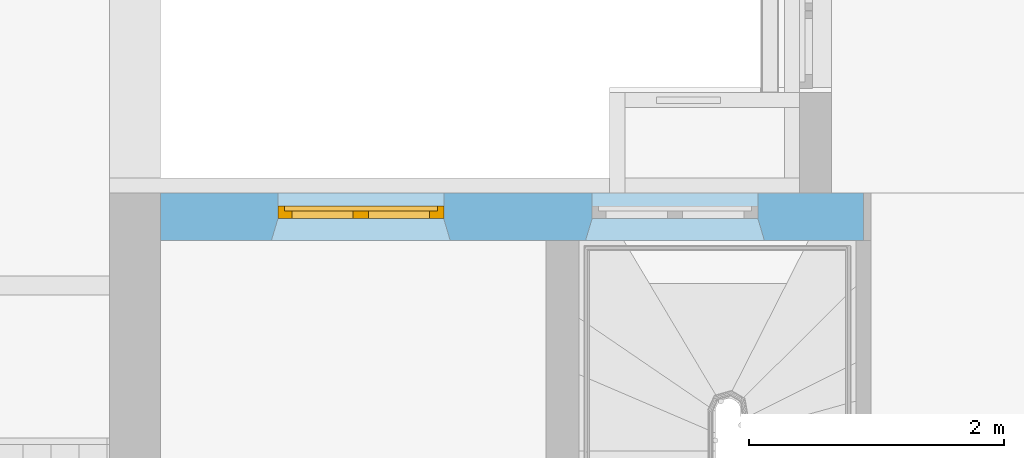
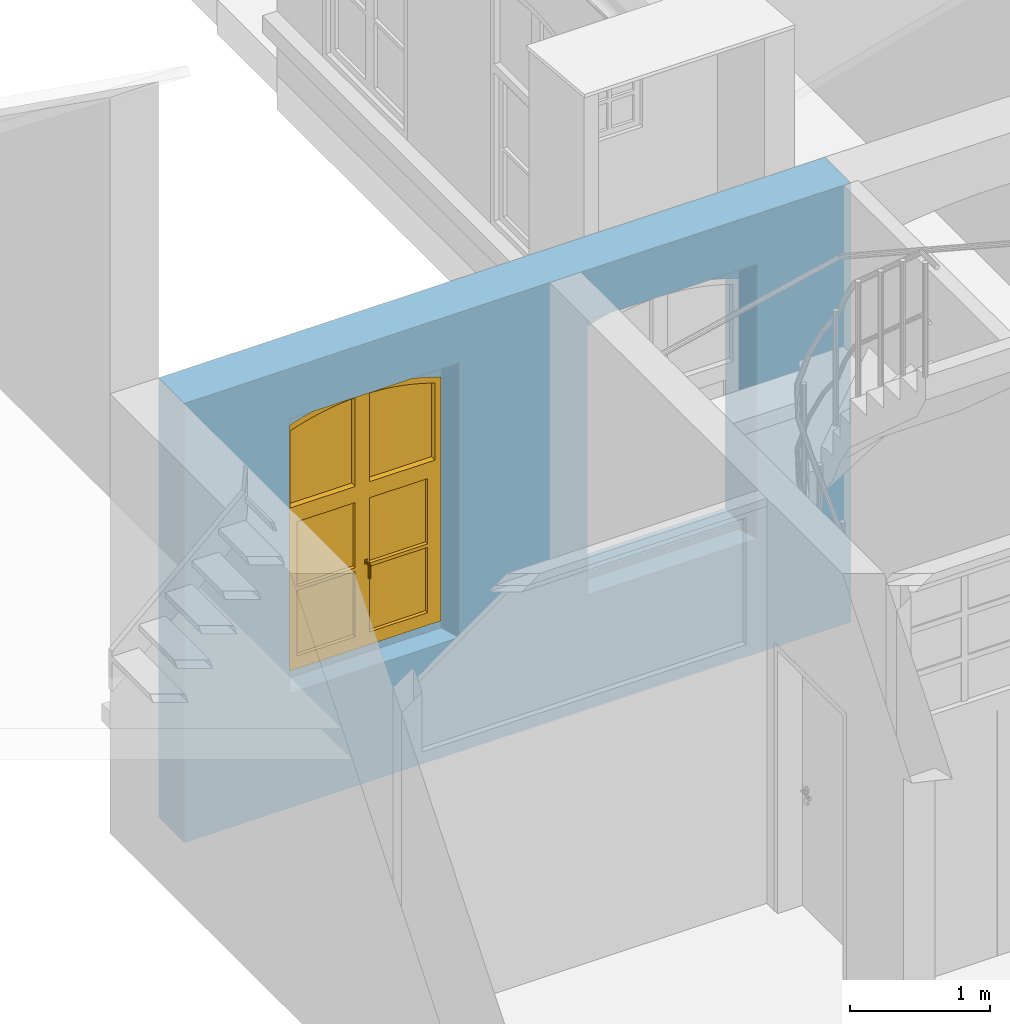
"""IFC4 building model written with IfcOpenShell, lengths in metres."""

from ifc_helpers import new_model, entity, si_unit, converted_unit, derived_unit, frame, frame_2d, origin, origin_with_axes, place, context, subcontext, project, spatial, polyline, rectangle, outline, extrude, closed_shell, open_shell, surface_model, source, transform, mapped, material, layer, layer_set, layer_usage, element, fill, save


model = new_model("IFC4")

# Units and contexts
model_context = context("Model", 3, precision=1e-05, world=origin())
body_context = subcontext(model_context, "Body", "Model", "MODEL_VIEW")
ifc_project = project(units=[si_unit("LENGTHUNIT", "METRE"), si_unit("AREAUNIT", "SQUARE_METRE"), si_unit("VOLUMEUNIT", "CUBIC_METRE"), si_unit("MASSUNIT", "GRAM", prefix="KILO"), converted_unit("PLANEANGLEUNIT", "DEGREE", entity("IfcPlaneAngleMeasure", 0.0174532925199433), si_unit("PLANEANGLEUNIT", "RADIAN"), dimensions=[0, 0, 0, 0, 0, 0, 0]), derived_unit("THERMALTRANSMITTANCEUNIT", [(si_unit("POWERUNIT", "WATT"), 1), (si_unit("THERMODYNAMICTEMPERATUREUNIT", "KELVIN"), -1), (si_unit("LENGTHUNIT", "METRE"), -2)]), derived_unit("VOLUMETRICFLOWRATEUNIT", [(si_unit("LENGTHUNIT", "METRE"), 3), (converted_unit("TIMEUNIT", "hour", entity("IfcTimeMeasure", 3600.0), si_unit("TIMEUNIT", "SECOND"), dimensions=[0, 0, 1, 0, 0, 0, 0]), -1), (si_unit("LENGTHUNIT", "METRE"), -1)])], contexts=[model_context])

# Building, storeys
building_placement = place(None, origin())
building = spatial("IfcBuilding", under=ifc_project, at=building_placement, Name="Bestandsgebäude A - Sporthalle / Wohnhaus (TB 100-499)   ANPASSEN !!!", CompositionType="ELEMENT")
storey_1_placement = place(building_placement, frame((0.0, 0.0, 3.87)))
storey_1 = spatial("IfcBuildingStorey", under=building, at=storey_1_placement, Name="Geb. A 1. Obergeschoss (TB 250-299)", CompositionType="ELEMENT", Elevation=3.87)
storey_2_placement = place(storey_1_placement, frame((0.0, 0.0, 3.87)))
storey_2 = spatial("IfcBuildingStorey", under=storey_1, at=storey_2_placement, Name="Architektur (TB 250-259)", CompositionType="PARTIAL")

# Wall, openings, window
ifc_material = material(Name="concrete")
ifc_layer = layer(ifc_material, 0.37)
ifc_layer_set = layer_set([ifc_layer])
ifc_layer_usage = layer_usage(ifc_layer_set, "AXIS2", "POSITIVE", 0.0)
wall_placement = place(storey_2_placement, frame((-2.99, 9.25, -4.27), z_axis=(0.0, 0.0, 1.0), x_axis=(-1.0, 0.0, 0.0)))
wall = element("IfcWall", 1, at=wall_placement, inside=storey_2, material=ifc_layer_usage, Name="reinforced - bearing", PredefinedType="USERDEFINED", context=body_context, shape_type="SweptSolid", body=[
    extrude(rectangle(XDim=5.51, YDim=0.37, at=frame_2d((2.755, 0.185), x_axis=(1.0, 0.0))), origin_with_axes(), (0.0, 0.0, 1.0), 3.84),
])
opening_1_placement = place(wall_placement, frame((0.82707106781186, 0.0, 1.06), z_axis=(0.0, 1.0, 0.0), x_axis=(0.0, 0.0, 1.0)))
element("IfcOpeningElement", 2, at=opening_1_placement, cuts=wall, Name="Window opening", PredefinedType="OPENING", context=body_context, shape_type="SweptSolid", body=[
    extrude(outline(polyline([(2.13, 1.3), (2.14531656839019, 1.25842115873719), (2.15961661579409, 1.21648184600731), (2.1728916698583, 1.17420690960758), (2.18513386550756, 1.1316213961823), (2.19633594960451, 1.08875053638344), (2.20649128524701, 1.04561972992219), (2.21559385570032, 1.00225453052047), (2.22363826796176, 0.958680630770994), (2.23061975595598, 0.914923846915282), (2.23653418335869, 0.871010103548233), (2.24137804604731, 0.8269654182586), (2.24514847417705, 0.782815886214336), (2.24784323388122, 0.738587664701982), (2.24946072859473, 0.694306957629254), (2.25, 0.65), (2.24946072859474, 0.605693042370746), (2.24784323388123, 0.561412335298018), (2.24514847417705, 0.517184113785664), (2.24137804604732, 0.473034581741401), (2.2365341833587, 0.428989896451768), (2.23061975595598, 0.385076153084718), (2.22363826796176, 0.341319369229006), (2.21559385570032, 0.297745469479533), (2.20649128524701, 0.254380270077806), (2.1963359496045, 0.211249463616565), (2.18513386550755, 0.168378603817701), (2.1728916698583, 0.125793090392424), (2.15961661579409, 0.0835181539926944), (2.14531656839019, 0.0415788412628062), (2.13, 0.0), (0.0, 0.0), (0.0, 1.3), (2.13, 1.3)])), origin_with_axes(), (0.0, 0.0, 1.0), 0.37),
])
opening_2_placement = place(wall_placement, frame((2.17814473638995, 0.37, 1.0), z_axis=(0.0, 0.0, 1.0), x_axis=(-1.0, 0.0, 0.0)))
element("IfcOpeningElement", 3, at=opening_2_placement, cuts=wall, Name="Wall Niche", ObjectType="Opening", context=body_context, shape_type="SweptSolid", body=[
    extrude(outline(polyline([(0.0, 0.0), (1.40142755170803, 0.0), (1.35107366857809, 0.17), (0.0510736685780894, 0.17), (0.0, 0.0)])), origin_with_axes(), (0.0, 0.0, 1.0), 2.4),
])
opening_3_placement = place(wall_placement, frame((4.64107366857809, 0.37, 1.0), z_axis=(0.0, 0.0, 1.0), x_axis=(-1.0, 0.0, 0.0)))
element("IfcOpeningElement", 4, at=opening_3_placement, cuts=wall, Name="Wall Niche", ObjectType="Opening", context=body_context, shape_type="SweptSolid", body=[
    extrude(outline(polyline([(0.0, 0.0), (1.40142755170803, 0.0), (1.35107366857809, 0.17), (0.0510736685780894, 0.17), (0.0, 0.0)])), origin_with_axes(), (0.0, 0.0, 1.0), 2.4),
])
opening_4_placement = place(wall_placement, frame((3.29, 0.0, 1.06), z_axis=(0.0, 1.0, 0.0), x_axis=(0.0, 0.0, 1.0)))
opening_4 = element("IfcOpeningElement", 5, at=opening_4_placement, cuts=wall, Name="Window opening", PredefinedType="OPENING", context=body_context, shape_type="SweptSolid", body=[
    extrude(outline(polyline([(2.13, 1.3), (2.14531656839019, 1.25842115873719), (2.15961661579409, 1.21648184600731), (2.1728916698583, 1.17420690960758), (2.18513386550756, 1.1316213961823), (2.1963359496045, 1.08875053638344), (2.20649128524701, 1.04561972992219), (2.21559385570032, 1.00225453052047), (2.22363826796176, 0.958680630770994), (2.23061975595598, 0.914923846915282), (2.23653418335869, 0.871010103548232), (2.24137804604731, 0.8269654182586), (2.24514847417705, 0.782815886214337), (2.24784323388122, 0.738587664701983), (2.24946072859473, 0.694306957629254), (2.25, 0.65), (2.24946072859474, 0.605693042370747), (2.24784323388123, 0.561412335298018), (2.24514847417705, 0.517184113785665), (2.24137804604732, 0.473034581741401), (2.2365341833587, 0.428989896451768), (2.23061975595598, 0.385076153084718), (2.22363826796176, 0.341319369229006), (2.21559385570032, 0.297745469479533), (2.20649128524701, 0.254380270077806), (2.1963359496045, 0.211249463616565), (2.18513386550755, 0.1683786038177), (2.1728916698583, 0.125793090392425), (2.15961661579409, 0.0835181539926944), (2.14531656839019, 0.0415788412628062), (2.13, 0.0), (0.0, 0.0), (0.0, 1.3), (2.13, 1.3)])), origin_with_axes(), (0.0, 0.0, 1.0), 0.37),
])
shared_shape = source(origin_with_axes(), body_context, "Body", "SurfaceModel", [
    surface_model("IfcShellBasedSurfaceModel", [(1.25842115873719, 0.0, 2.14531656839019), (1.3, 0.0, 2.13), (1.3, 0.0, 0.0), (0.0, 0.0, 0.0), (0.0, 0.0, 2.13), (0.0415788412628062, 0.0, 2.14531656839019), (0.0835181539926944, 0.0, 2.15961661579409), (0.125793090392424, 0.0, 2.1728916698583), (0.1683786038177, 0.0, 2.18513386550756), (0.211249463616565, 0.0, 2.1963359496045), (0.254380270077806, 0.0, 2.20649128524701), (0.297745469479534, 0.0, 2.21559385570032), (0.341319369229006, 0.0, 2.22363826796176), (0.385076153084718, 0.0, 2.23061975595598), (0.428989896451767, 0.0, 2.23653418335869), (0.473034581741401, 0.0, 2.24137804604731), (0.517184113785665, 0.0, 2.24514847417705), (0.561412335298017, 0.0, 2.24784323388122), (0.605693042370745, 0.0, 2.24946072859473), (0.65, 0.0, 2.25), (0.694306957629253, 0.0, 2.24946072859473), (0.738587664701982, 0.0, 2.24784323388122), (0.782815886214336, 0.0, 2.24514847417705), (0.8269654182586, 0.0, 2.24137804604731), (0.871010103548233, 0.0, 2.23653418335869), (0.914923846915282, 0.0, 2.23061975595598), (0.958680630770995, 0.0, 2.22363826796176), (1.00225453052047, 0.0, 2.21559385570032), (1.04561972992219, 0.0, 2.20649128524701), (1.08875053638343, 0.0, 2.1963359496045), (1.1316213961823, 0.0, 2.18513386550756), (1.17420690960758, 0.0, 2.1728916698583), (1.21648184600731, 0.0, 2.15961661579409), (1.25, 0.0, 2.0951341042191), (1.24170887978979, 0.0, 2.09818833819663), (1.20092156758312, 0.0, 2.1120955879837), (1.15980785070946, 0.0, 2.12500599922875), (1.118392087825, 0.0, 2.13691192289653), (1.07669881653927, 0.0, 2.14780630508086), (1.03475273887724, 0.0, 2.15768269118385), (0.992578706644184, 0.0, 2.16653522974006), (0.950201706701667, 0.0, 2.17435867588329), (0.907646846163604, 0.0, 2.18114839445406), (0.864939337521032, 0.0, 2.18690036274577), (0.82210448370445, 0.0, 2.19161117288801), (0.779167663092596, 0.0, 2.19527803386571), (0.736154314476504, 0.0, 2.19789877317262), (0.693089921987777, 0.0, 2.19947183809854), (0.65, 0.0, 2.19999629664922), (0.606910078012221, 0.0, 2.19947183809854), (0.563845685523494, 0.0, 2.19789877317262), (0.520832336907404, 0.0, 2.19527803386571), (0.477895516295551, 0.0, 2.19161117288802), (0.435060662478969, 0.0, 2.18690036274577), (0.392353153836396, 0.0, 2.18114839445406), (0.349798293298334, 0.0, 2.17435867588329), (0.307421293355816, 0.0, 2.16653522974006), (0.265247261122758, 0.0, 2.15768269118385), (0.223301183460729, 0.0, 2.14780630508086), (0.181607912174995, 0.0, 2.13691192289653), (0.140192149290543, 0.0, 2.12500599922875), (0.0990784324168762, 0.0, 2.1120955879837), (0.0582911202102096, 0.0, 2.09818833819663), (0.05, 0.0, 2.0951341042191), (0.05, 0.0, 0.05), (1.25, 0.0, 0.05), (1.3, 0.1, 2.13), (1.25842115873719, 0.1, 2.14531656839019), (1.21648184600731, 0.1, 2.15961661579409), (1.17420690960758, 0.1, 2.1728916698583), (1.1316213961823, 0.1, 2.18513386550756), (1.08875053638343, 0.1, 2.1963359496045), (1.04561972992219, 0.1, 2.20649128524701), (1.00225453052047, 0.1, 2.21559385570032), (0.958680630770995, 0.1, 2.22363826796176), (0.914923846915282, 0.1, 2.23061975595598), (0.871010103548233, 0.1, 2.23653418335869), (0.8269654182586, 0.1, 2.24137804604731), (0.782815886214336, 0.1, 2.24514847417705), (0.738587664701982, 0.1, 2.24784323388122), (0.694306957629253, 0.1, 2.24946072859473), (0.65, 0.1, 2.25), (0.605693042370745, 0.1, 2.24946072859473), (0.561412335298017, 0.1, 2.24784323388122), (0.517184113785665, 0.1, 2.24514847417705), (0.473034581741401, 0.1, 2.24137804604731), (0.428989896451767, 0.1, 2.23653418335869), (0.385076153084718, 0.1, 2.23061975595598), (0.341319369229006, 0.1, 2.22363826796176), (0.297745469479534, 0.1, 2.21559385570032), (0.254380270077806, 0.1, 2.20649128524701), (0.211249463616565, 0.1, 2.1963359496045), (0.1683786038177, 0.1, 2.18513386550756), (0.125793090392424, 0.1, 2.1728916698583), (0.0835181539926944, 0.1, 2.15961661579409), (0.0415788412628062, 0.1, 2.14531656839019), (0.0, 0.1, 2.13), (0.0, 0.1, 0.0), (1.3, 0.1, 0.0), (1.24170887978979, 0.1, 2.09818833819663), (1.25, 0.1, 2.0951341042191), (1.25, 0.1, 0.05), (0.05, 0.1, 0.05), (0.05, 0.1, 2.0951341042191), (0.0582911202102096, 0.1, 2.09818833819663), (0.0990784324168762, 0.1, 2.1120955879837), (0.140192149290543, 0.1, 2.12500599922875), (0.181607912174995, 0.1, 2.13691192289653), (0.223301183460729, 0.1, 2.14780630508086), (0.265247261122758, 0.1, 2.15768269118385), (0.307421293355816, 0.1, 2.16653522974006), (0.349798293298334, 0.1, 2.17435867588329), (0.392353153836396, 0.1, 2.18114839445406), (0.435060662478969, 0.1, 2.18690036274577), (0.477895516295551, 0.1, 2.19161117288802), (0.520832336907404, 0.1, 2.19527803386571), (0.563845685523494, 0.1, 2.19789877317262), (0.606910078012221, 0.1, 2.19947183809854), (0.65, 0.1, 2.19999629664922), (0.693089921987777, 0.1, 2.19947183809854), (0.736154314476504, 0.1, 2.19789877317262), (0.779167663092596, 0.1, 2.19527803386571), (0.82210448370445, 0.1, 2.19161117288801), (0.864939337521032, 0.1, 2.18690036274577), (0.907646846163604, 0.1, 2.18114839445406), (0.950201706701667, 0.1, 2.17435867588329), (0.992578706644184, 0.1, 2.16653522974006), (1.03475273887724, 0.1, 2.15768269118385), (1.07669881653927, 0.1, 2.14780630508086), (1.118392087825, 0.1, 2.13691192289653), (1.15980785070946, 0.1, 2.12500599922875), (1.20092156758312, 0.1, 2.1120955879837)], [closed_shell([[[0, 1, 2, 3, 4, 5, 6, 7, 8, 9, 10, 11, 12, 13, 14, 15, 16, 17, 18, 19, 20, 21, 22, 23, 24, 25, 26, 27, 28, 29, 30, 31, 32], [33, 34, 35, 36, 37, 38, 39, 40, 41, 42, 43, 44, 45, 46, 47, 48, 49, 50, 51, 52, 53, 54, 55, 56, 57, 58, 59, 60, 61, 62, 63, 64, 65]], [[66, 67, 68, 69, 70, 71, 72, 73, 74, 75, 76, 77, 78, 79, 80, 81, 82, 83, 84, 85, 86, 87, 88, 89, 90, 91, 92, 93, 94, 95, 96, 97, 98], [99, 100, 101, 102, 103, 104, 105, 106, 107, 108, 109, 110, 111, 112, 113, 114, 115, 116, 117, 118, 119, 120, 121, 122, 123, 124, 125, 126, 127, 128, 129, 130, 131]], [[1, 0, 67, 66]], [[2, 1, 66, 98]], [[3, 2, 98, 97]], [[4, 3, 97, 96]], [[5, 4, 96, 95]], [[6, 5, 95, 94]], [[7, 6, 94, 93]], [[8, 7, 93, 92]], [[9, 8, 92, 91]], [[10, 9, 91, 90]], [[11, 10, 90, 89]], [[12, 11, 89, 88]], [[13, 12, 88, 87]], [[14, 13, 87, 86]], [[15, 14, 86, 85]], [[16, 15, 85, 84]], [[17, 16, 84, 83]], [[18, 17, 83, 82]], [[19, 18, 82, 81]], [[20, 19, 81, 80]], [[21, 20, 80, 79]], [[22, 21, 79, 78]], [[23, 22, 78, 77]], [[24, 23, 77, 76]], [[25, 24, 76, 75]], [[26, 25, 75, 74]], [[27, 26, 74, 73]], [[28, 27, 73, 72]], [[29, 28, 72, 71]], [[30, 29, 71, 70]], [[31, 30, 70, 69]], [[32, 31, 69, 68]], [[0, 32, 68, 67]], [[33, 100, 99, 34]], [[65, 101, 100, 33]], [[64, 102, 101, 65]], [[63, 103, 102, 64]], [[62, 104, 103, 63]], [[61, 105, 104, 62]], [[60, 106, 105, 61]], [[59, 107, 106, 60]], [[58, 108, 107, 59]], [[57, 109, 108, 58]], [[56, 110, 109, 57]], [[55, 111, 110, 56]], [[54, 112, 111, 55]], [[53, 113, 112, 54]], [[52, 114, 113, 53]], [[51, 115, 114, 52]], [[50, 116, 115, 51]], [[49, 117, 116, 50]], [[48, 118, 117, 49]], [[47, 119, 118, 48]], [[46, 120, 119, 47]], [[45, 121, 120, 46]], [[44, 122, 121, 45]], [[43, 123, 122, 44]], [[42, 124, 123, 43]], [[41, 125, 124, 42]], [[40, 126, 125, 41]], [[39, 127, 126, 40]], [[38, 128, 127, 39]], [[37, 129, 128, 38]], [[36, 130, 129, 37]], [[35, 131, 130, 36]], [[34, 99, 131, 35]]], orient=[[False, False], [False, False], [False], [False], [False], [False], [False], [False], [False], [False], [False], [False], [False], [False], [False], [False], [False], [False], [False], [False], [False], [False], [False], [False], [False], [False], [False], [False], [False], [False], [False], [False], [False], [False], [False], [False], [False], [False], [False], [False], [False], [False], [False], [False], [False], [False], [False], [False], [False], [False], [False], [False], [False], [False], [False], [False], [False], [False], [False], [False], [False], [False], [False], [False], [False], [False], [False], [False]])]),
    surface_model("IfcShellBasedSurfaceModel", [(1.25, 0.0, 1.4226446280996), (1.25, 0.0, 1.3426446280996), (0.05, 0.0, 1.3426446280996), (0.05, 0.0, 1.4226446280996), (1.25, 0.1, 1.3426446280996), (1.25, 0.1, 1.4226446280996), (0.05, 0.1, 1.4226446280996), (0.05, 0.1, 1.3426446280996)], [closed_shell([[[0, 1, 2, 3]], [[4, 5, 6, 7]], [[1, 0, 5, 4]], [[2, 1, 4, 7]], [[3, 2, 7, 6]], [[0, 3, 6, 5]]], orient=[[False], [False], [False], [False], [False], [False]])]),
    surface_model("IfcShellBasedSurfaceModel", [(0.71, 0.0, 2.19885414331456), (0.71, 0.0, 1.4226446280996), (0.59, 0.0, 1.4226446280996), (0.59, 0.0, 2.19885414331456), (0.606910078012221, 0.0, 2.19947183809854), (0.65, 0.0, 2.19999629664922), (0.693089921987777, 0.0, 2.19947183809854), (0.71, 0.1, 1.4226446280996), (0.71, 0.1, 2.19885414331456), (0.693089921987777, 0.1, 2.19947183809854), (0.65, 0.1, 2.19999629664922), (0.606910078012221, 0.1, 2.19947183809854), (0.59, 0.1, 2.19885414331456), (0.59, 0.1, 1.4226446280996)], [closed_shell([[[0, 1, 2, 3, 4, 5, 6]], [[7, 8, 9, 10, 11, 12, 13]], [[1, 0, 8, 7]], [[2, 1, 7, 13]], [[3, 2, 13, 12]], [[4, 3, 12, 11]], [[5, 4, 11, 10]], [[6, 5, 10, 9]], [[0, 6, 9, 8]]], orient=[[False], [False], [False], [False], [False], [False], [False], [False], [False]])]),
    surface_model("IfcShellBasedSurfaceModel", [(0.6505, 0.0, 0.05), (0.6505, 0.0, 1.3426446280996), (1.25, 0.0, 1.3426446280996), (1.25, 0.0, 0.05), (0.7105, 0.0, 1.2826446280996), (0.7105, 0.0, 0.11), (1.19, 0.0, 0.11), (1.19, 0.0, 1.2826446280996), (0.6505, 0.06, 1.3426446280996), (0.6505, 0.06, 0.05), (1.25, 0.06, 0.05), (1.25, 0.06, 1.3426446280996), (0.7105, 0.06, 0.11), (0.7105, 0.06, 1.2826446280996), (1.19, 0.06, 1.2826446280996), (1.19, 0.06, 0.11)], [closed_shell([[[0, 1, 2, 3], [4, 5, 6, 7]], [[8, 9, 10, 11], [12, 13, 14, 15]], [[1, 0, 9, 8]], [[2, 1, 8, 11]], [[3, 2, 11, 10]], [[0, 3, 10, 9]], [[4, 13, 12, 5]], [[7, 14, 13, 4]], [[6, 15, 14, 7]], [[5, 12, 15, 6]]], orient=[[False, False], [False, False], [False], [False], [False], [False], [False], [False], [False], [False]])]),
    surface_model("IfcShellBasedSurfaceModel", [(0.693, 0.0, 0.755), (0.668, 0.0, 0.755), (0.668, 0.0, 0.715), (0.693, 0.0, 0.715), (0.693, -0.01, 0.715), (0.668, -0.01, 0.715), (0.668, -0.01, 0.755), (0.693, -0.01, 0.755)], [closed_shell([[[0, 1, 2, 3]], [[4, 5, 6, 7]], [[3, 4, 7, 0]], [[2, 5, 4, 3]], [[1, 6, 5, 2]], [[0, 7, 6, 1]]], orient=[[False], [False], [False], [False], [False], [False]])]),
    surface_model("IfcShellBasedSurfaceModel", [(0.6705, -0.01, 0.735), (0.671839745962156, -0.01, 0.73), (0.6755, -0.01, 0.726339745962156), (0.6805, -0.01, 0.725), (0.6855, -0.01, 0.726339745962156), (0.689160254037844, -0.01, 0.73), (0.6905, -0.01, 0.735), (0.689160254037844, -0.01, 0.74), (0.6855, -0.01, 0.743660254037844), (0.6805, -0.01, 0.745), (0.6755, -0.01, 0.743660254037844), (0.671839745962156, -0.01, 0.74), (0.671839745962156, -0.0550000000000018, 0.74), (0.6705, -0.0500000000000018, 0.735), (0.6755, -0.0586602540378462, 0.743660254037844), (0.6805, -0.0600000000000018, 0.745), (0.6855, -0.0586602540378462, 0.743660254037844), (0.689160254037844, -0.0550000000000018, 0.74), (0.6905, -0.0500000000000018, 0.735), (0.689160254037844, -0.0450000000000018, 0.73), (0.6855, -0.0413397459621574, 0.726339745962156), (0.6805, -0.0400000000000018, 0.725), (0.6755, -0.0413397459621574, 0.726339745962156), (0.671839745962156, -0.0450000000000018, 0.73), (0.6705, -0.0500000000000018, 0.62), (0.671839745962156, -0.0550000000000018, 0.62), (0.6755, -0.0586602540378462, 0.62), (0.6805, -0.0600000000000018, 0.62), (0.6855, -0.0586602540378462, 0.62), (0.689160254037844, -0.0550000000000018, 0.62), (0.6905, -0.0500000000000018, 0.62), (0.689160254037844, -0.0450000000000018, 0.62), (0.6855, -0.0413397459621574, 0.62), (0.6805, -0.0400000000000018, 0.62), (0.6755, -0.0413397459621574, 0.62), (0.671839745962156, -0.0450000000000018, 0.62)], [closed_shell([[[0, 1, 2, 3, 4, 5, 6, 7, 8, 9, 10, 11]], [[0, 11, 12, 13]], [[11, 10, 14, 12]], [[10, 9, 15, 14]], [[9, 8, 16, 15]], [[8, 7, 17, 16]], [[7, 6, 18, 17]], [[6, 5, 19, 18]], [[5, 4, 20, 19]], [[4, 3, 21, 20]], [[3, 2, 22, 21]], [[2, 1, 23, 22]], [[1, 0, 13, 23]], [[24, 25, 26, 27, 28, 29, 30, 31, 32, 33, 34, 35]], [[13, 12, 25, 24]], [[12, 14, 26, 25]], [[14, 15, 27, 26]], [[15, 16, 28, 27]], [[16, 17, 29, 28]], [[17, 18, 30, 29]], [[18, 19, 31, 30]], [[19, 20, 32, 31]], [[20, 21, 33, 32]], [[21, 22, 34, 33]], [[22, 23, 35, 34]], [[23, 13, 24, 35]]], orient=[[False], [False], [False], [False], [False], [False], [False], [False], [False], [False], [False], [False], [False], [False], [False], [False], [False], [False], [False], [False], [False], [False], [False], [False], [False], [False]])]),
    surface_model("IfcShellBasedSurfaceModel", [(0.6495, 0.0, 1.3426446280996), (0.6495, 0.0, 0.05), (0.05, 0.0, 0.05), (0.05, 0.0, 1.3426446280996), (0.5895, 0.0, 0.11), (0.5895, 0.0, 1.2826446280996), (0.11, 0.0, 1.2826446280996), (0.11, 0.0, 0.11), (0.6495, 0.06, 0.05), (0.6495, 0.06, 1.3426446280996), (0.05, 0.06, 1.3426446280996), (0.05, 0.06, 0.05), (0.5895, 0.06, 1.2826446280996), (0.5895, 0.06, 0.11), (0.11, 0.06, 0.11), (0.11, 0.06, 1.2826446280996)], [closed_shell([[[0, 1, 2, 3], [4, 5, 6, 7]], [[8, 9, 10, 11], [12, 13, 14, 15]], [[1, 0, 9, 8]], [[2, 1, 8, 11]], [[3, 2, 11, 10]], [[0, 3, 10, 9]], [[4, 13, 12, 5]], [[7, 14, 13, 4]], [[6, 15, 14, 7]], [[5, 12, 15, 6]]], orient=[[False, False], [False, False], [False], [False], [False], [False], [False], [False], [False], [False]])]),
    surface_model("IfcShellBasedSurfaceModel", [(0.5895, 0.0, 0.7113223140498), (0.5895, 0.0, 0.6813223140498), (0.11, 0.0, 0.6813223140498), (0.11, 0.0, 0.7113223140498), (0.5895, 0.06, 0.6813223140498), (0.5895, 0.06, 0.7113223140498), (0.11, 0.06, 0.7113223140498), (0.11, 0.06, 0.6813223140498)], [closed_shell([[[0, 1, 2, 3]], [[4, 5, 6, 7]], [[1, 0, 5, 4]], [[2, 1, 4, 7]], [[3, 2, 7, 6]], [[0, 3, 6, 5]]], orient=[[False], [False], [False], [False], [False], [False]])]),
    surface_model("IfcShellBasedSurfaceModel", [(1.19, 0.0, 0.7113223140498), (1.19, 0.0, 0.6813223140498), (0.7105, 0.0, 0.6813223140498), (0.7105, 0.0, 0.7113223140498), (1.19, 0.06, 0.6813223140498), (1.19, 0.06, 0.7113223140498), (0.7105, 0.06, 0.7113223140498), (0.7105, 0.06, 0.6813223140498)], [closed_shell([[[0, 1, 2, 3]], [[4, 5, 6, 7]], [[1, 0, 5, 4]], [[2, 1, 4, 7]], [[3, 2, 7, 6]], [[0, 3, 6, 5]]], orient=[[False], [False], [False], [False], [False], [False]])]),
    surface_model("IfcShellBasedSurfaceModel", [(1.24170887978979, 0.05, 2.09818833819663), (1.25, 0.05, 2.0951341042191), (1.25, 0.05, 1.4226446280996), (0.71, 0.05, 1.4226446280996), (0.71, 0.05, 2.19885414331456), (0.736154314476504, 0.05, 2.19789877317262), (0.779167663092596, 0.05, 2.19527803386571), (0.82210448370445, 0.05, 2.19161117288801), (0.864939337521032, 0.05, 2.18690036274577), (0.907646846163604, 0.05, 2.18114839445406), (0.950201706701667, 0.05, 2.17435867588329), (0.992578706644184, 0.05, 2.16653522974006), (1.03475273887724, 0.05, 2.15768269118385), (1.07669881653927, 0.05, 2.14780630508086), (1.118392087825, 0.05, 2.13691192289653), (1.15980785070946, 0.05, 2.12500599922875), (1.20092156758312, 0.05, 2.1120955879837)], [open_shell([[[0, 1, 2, 3, 4, 5, 6, 7, 8, 9, 10, 11, 12, 13, 14, 15, 16]]], orient=[[False]])]),
    surface_model("IfcShellBasedSurfaceModel", [(0.563845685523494, 0.05, 2.19789877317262), (0.59, 0.05, 2.19885414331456), (0.59, 0.05, 1.4226446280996), (0.05, 0.05, 1.4226446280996), (0.05, 0.05, 2.0951341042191), (0.0582911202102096, 0.05, 2.09818833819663), (0.0990784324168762, 0.05, 2.1120955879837), (0.140192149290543, 0.05, 2.12500599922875), (0.181607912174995, 0.05, 2.13691192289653), (0.223301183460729, 0.05, 2.14780630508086), (0.265247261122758, 0.05, 2.15768269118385), (0.307421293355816, 0.05, 2.16653522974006), (0.349798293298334, 0.05, 2.17435867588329), (0.392353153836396, 0.05, 2.18114839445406), (0.435060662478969, 0.05, 2.18690036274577), (0.477895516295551, 0.05, 2.19161117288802), (0.520832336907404, 0.05, 2.19527803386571)], [open_shell([[[0, 1, 2, 3, 4, 5, 6, 7, 8, 9, 10, 11, 12, 13, 14, 15, 16]]], orient=[[False]])]),
    surface_model("IfcShellBasedSurfaceModel", [(0.5895, 0.03, 0.6813223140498), (0.5895, 0.03, 0.11), (0.11, 0.03, 0.11), (0.11, 0.03, 0.6813223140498)], [open_shell([[[0, 1, 2, 3]]], orient=[[False]])]),
    surface_model("IfcShellBasedSurfaceModel", [(0.11, 0.03, 1.2826446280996), (0.5895, 0.03, 1.2826446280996), (0.5895, 0.03, 0.7113223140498), (0.11, 0.03, 0.7113223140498)], [open_shell([[[0, 1, 2, 3]]], orient=[[False]])]),
    surface_model("IfcShellBasedSurfaceModel", [(1.19, 0.03, 0.6813223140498), (1.19, 0.03, 0.11), (0.7105, 0.03, 0.11), (0.7105, 0.03, 0.6813223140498)], [open_shell([[[0, 1, 2, 3]]], orient=[[False]])]),
    surface_model("IfcShellBasedSurfaceModel", [(0.7105, 0.03, 1.2826446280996), (1.19, 0.03, 1.2826446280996), (1.19, 0.03, 0.7113223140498), (0.7105, 0.03, 0.7113223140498)], [open_shell([[[0, 1, 2, 3]]], orient=[[False]])]),
    surface_model("IfcShellBasedSurfaceModel", [(0.11, 0.03, 0.11), (0.5895, 0.03, 0.6963223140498), (0.11, 0.03, 1.2826446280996)], [open_shell([[[0, 1, 2]]], orient=[[False]])]),
])
window_placement = place(opening_4_placement, frame((0.0, 1.3, 0.2), z_axis=(1.0, 0.0, 0.0), x_axis=(0.0, -1.0, 0.0)))
window = element("IfcWindow", 6, at=window_placement, inside=storey_2, Name="Window", OverallHeight=2.25, OverallWidth=1.3, PartitioningType="USERDEFINED", PredefinedType="WINDOW", context=body_context, shape_type="MappedRepresentation", body=[
    mapped(shared_shape, transform((0.0, 0.0, 0.0), x_axis=(1.0, 0.0, 0.0), y_axis=(0.0, 1.0, 0.0), z_axis=(0.0, 0.0, 1.0), scale=1.0)),
])
fill(opening_4, window)

save(model, "model.ifc")
